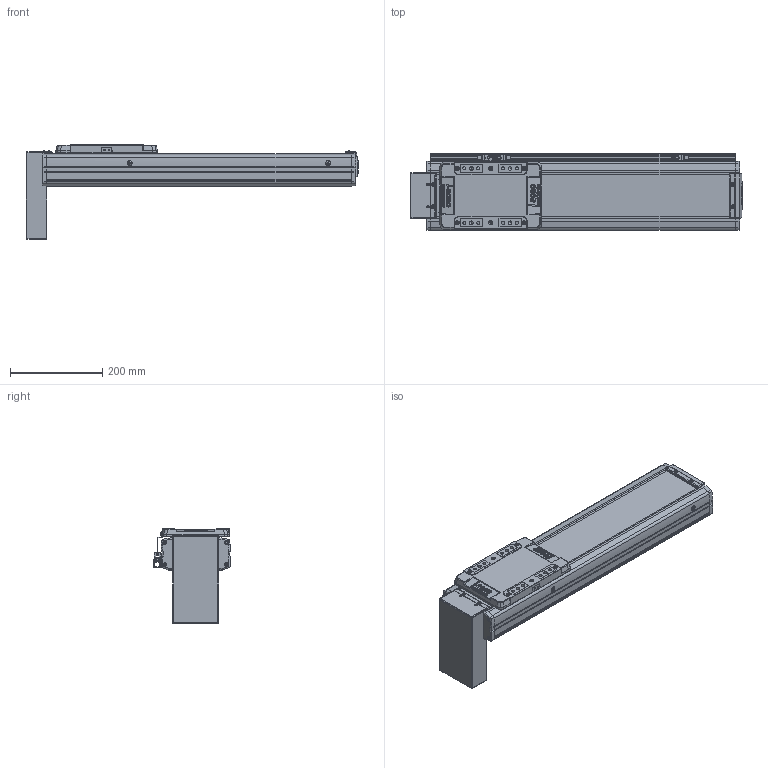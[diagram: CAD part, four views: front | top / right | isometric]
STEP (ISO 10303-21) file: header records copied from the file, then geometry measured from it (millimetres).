
FILE_DESCRIPTION(('STEP AP214'),'1');
FILE_NAME('Z:/Web/3D/SAN150/2013.04 (STP.)/SAN150ㅁㅁ-400PB+3SL.stp','2013-05-07T23:49:07',(' '),(' '),'Spatial InterOp 3D',' ',' ');
FILE_SCHEMA(('automotive_design'));
Length unit declared in the file: millimetre
Products named in the file (58): SLBL-SAN150; SLCV-SAN150; FHCS M4.0 x 8.0; BHCS M4.0 x 10.0; SFX-SAN150; RRCV-SAN150; FRBL-SAN150; Spacer; RN15; FRCV-SAN150; Screw 20; BASE-SAN150-000L ; SUS COVER; 스크루 : Round - M5.0 x 6.0; PB; 스크루 : Round - M3.0 x 6.0; M3.0 x 6.0; SRL-16x17-360L; SGD-SAN150; EE-SX674; SBK-SX674-352
Bounding box: 720 x 166 x 205.4 mm (x, y, z)
Volume: 4992024 mm3; surface area: 925393.6 mm2
Topology: 58 solids, 58 shells, 2596 faces, 6674 edges, 4295 vertices
Faces by surface type: plane 1390, cylinder 835, cone 258, sphere 80, bspline 21, torus 12
Entity records: 102638 total; most frequent: CARTESIAN_POINT 16133, DIRECTION 14124, ORIENTED_EDGE 13140, EDGE_CURVE 6570, AXIS2_PLACEMENT_3D 5001, VERTEX_POINT 4295, LINE 4122, VECTOR 4122
